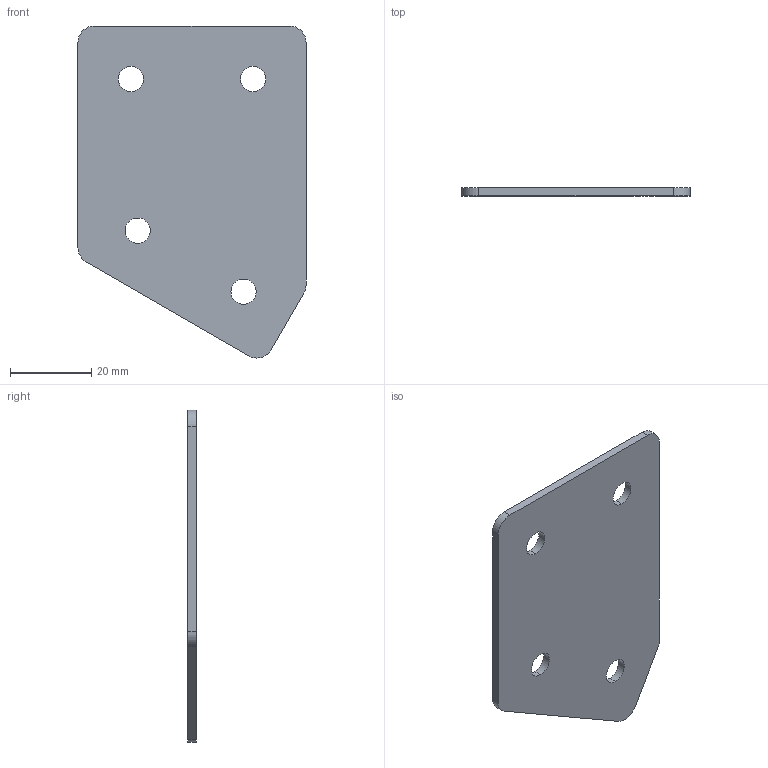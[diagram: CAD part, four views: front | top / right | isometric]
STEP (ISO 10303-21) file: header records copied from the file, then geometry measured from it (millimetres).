
FILE_DESCRIPTION (( 'STEP AP203' ), '1' );
FILE_NAME ('Ï-4-óãîë 30-30.STEP', '2016-07-23T16:40:38', ( '' ), ( '' ), 'SwSTEP 2.0', 'SolidWorks 2014', '' );
FILE_SCHEMA (( 'CONFIG_CONTROL_DESIGN' ));
Length unit declared in the file: millimetre
Products named in the file (1): Ï-4-óãîë 30-30
Bounding box: 56 x 2 x 81.54 mm (x, y, z)
Volume: 7649 mm3; surface area: 8295.6 mm2
Topology: 1 solids, 1 shells, 20 faces, 54 edges, 36 vertices
Faces by surface type: cylinder 13, plane 7
Entity records: 737 total; most frequent: DIRECTION 122, CARTESIAN_POINT 111, ORIENTED_EDGE 108, EDGE_CURVE 54, AXIS2_PLACEMENT_3D 47, VERTEX_POINT 36, VECTOR 28, EDGE_LOOP 28
